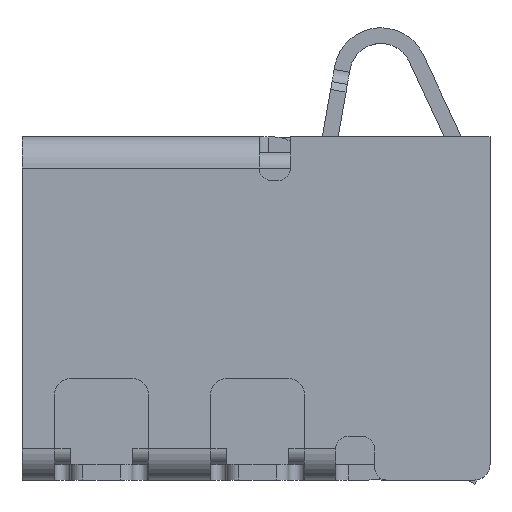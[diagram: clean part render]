
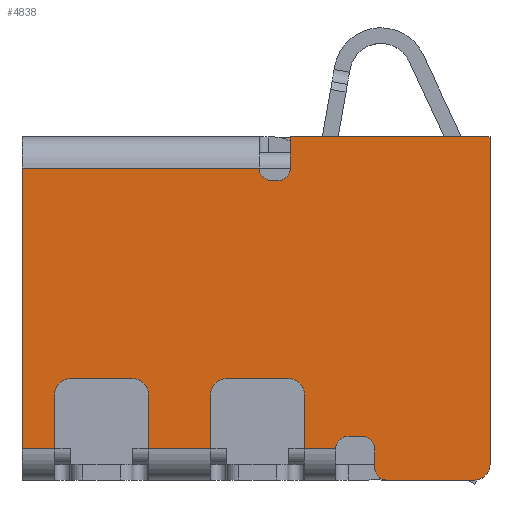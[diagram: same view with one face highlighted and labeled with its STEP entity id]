
A CAD part, top view. The second image highlights one B-rep face of the part: STEP entity #4838.
In plain terms, the highlighted planar face has unit normal (0, 0, 1) as drawn and (0, 1, 0) by its records, which use the part's own axes.
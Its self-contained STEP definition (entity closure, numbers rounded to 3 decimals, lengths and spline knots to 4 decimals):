
#229=DIRECTION('',(1.,0.,0.));
#230=VECTOR('',#229,0.09);
#231=CARTESIAN_POINT('',(0.78,0.55,-0.28));
#232=LINE('',#231,#230);
#862=DIRECTION('',(0.,0.,1.));
#863=VECTOR('',#862,0.35);
#864=CARTESIAN_POINT('',(-0.5,0.55,-0.55));
#865=LINE('',#864,#863);
#928=CARTESIAN_POINT('',(0.78,0.55,-0.2));
#929=DIRECTION('',(0.,-1.,0.));
#930=DIRECTION('',(-1.,0.,0.));
#931=AXIS2_PLACEMENT_3D('',#928,#929,#930);
#933=CARTESIAN_POINT('',(1.59,0.55,-0.1));
#934=DIRECTION('',(0.,1.,0.));
#935=DIRECTION('',(0.,0.,1.));
#936=AXIS2_PLACEMENT_3D('',#933,#934,#935);
#938=DIRECTION('',(1.,0.,0.));
#939=VECTOR('',#938,0.56);
#940=CARTESIAN_POINT('',(1.03,0.55,0.));
#941=LINE('',#940,#939);
#942=CARTESIAN_POINT('',(1.03,0.55,-0.08));
#943=DIRECTION('',(0.,1.,0.));
#944=DIRECTION('',(-1.,0.,0.));
#945=AXIS2_PLACEMENT_3D('',#942,#943,#944);
#947=DIRECTION('',(0.,0.,1.));
#948=VECTOR('',#947,0.12);
#949=CARTESIAN_POINT('',(0.95,0.55,-0.2));
#950=LINE('',#949,#948);
#951=DIRECTION('',(-1.,0.,0.));
#952=VECTOR('',#951,0.2);
#953=CARTESIAN_POINT('',(0.7,0.55,-0.2));
#954=LINE('',#953,#952);
#955=CARTESIAN_POINT('',(0.4,0.55,-0.55));
#956=DIRECTION('',(0.,1.,0.));
#957=DIRECTION('',(1.,0.,0.));
#958=AXIS2_PLACEMENT_3D('',#955,#956,#957);
#960=DIRECTION('',(-1.,0.,0.));
#961=VECTOR('',#960,0.4);
#962=CARTESIAN_POINT('',(0.4,0.55,-0.65));
#963=LINE('',#962,#961);
#964=CARTESIAN_POINT('',(0.,0.55,-0.55));
#965=DIRECTION('',(0.,1.,0.));
#966=DIRECTION('',(0.,0.,-1.));
#967=AXIS2_PLACEMENT_3D('',#964,#965,#966);
#969=DIRECTION('',(-1.,0.,0.));
#970=VECTOR('',#969,0.4);
#971=CARTESIAN_POINT('',(-0.1,0.55,-0.2));
#972=LINE('',#971,#970);
#973=CARTESIAN_POINT('',(-0.6,0.55,-0.55));
#974=DIRECTION('',(0.,1.,0.));
#975=DIRECTION('',(1.,0.,0.));
#976=AXIS2_PLACEMENT_3D('',#973,#974,#975);
#978=DIRECTION('',(-1.,0.,0.));
#979=VECTOR('',#978,0.4);
#980=CARTESIAN_POINT('',(-0.6,0.55,-0.65));
#981=LINE('',#980,#979);
#982=CARTESIAN_POINT('',(-1.,0.55,-0.55));
#983=DIRECTION('',(0.,1.,0.));
#984=DIRECTION('',(0.,0.,-1.));
#985=AXIS2_PLACEMENT_3D('',#982,#983,#984);
#987=DIRECTION('',(-1.,0.,0.));
#988=VECTOR('',#987,0.21);
#989=CARTESIAN_POINT('',(-1.1,0.55,-0.2));
#990=LINE('',#989,#988);
#991=DIRECTION('',(0.,0.,1.));
#992=VECTOR('',#991,1.8);
#993=CARTESIAN_POINT('',(-1.31,0.55,-2.));
#994=LINE('',#993,#992);
#995=DIRECTION('',(1.,0.,0.));
#996=VECTOR('',#995,1.52);
#997=CARTESIAN_POINT('',(-1.31,0.55,-2.));
#998=LINE('',#997,#996);
#999=CARTESIAN_POINT('',(0.29,0.55,-2.));
#1000=DIRECTION('',(0.,1.,0.));
#1001=DIRECTION('',(-1.,0.,0.));
#1002=AXIS2_PLACEMENT_3D('',#999,#1000,#1001);
#1004=DIRECTION('',(1.,0.,0.));
#1005=VECTOR('',#1004,0.04);
#1006=CARTESIAN_POINT('',(0.29,0.55,-1.92));
#1007=LINE('',#1006,#1005);
#1008=CARTESIAN_POINT('',(0.33,0.55,-2.));
#1009=DIRECTION('',(0.,1.,0.));
#1010=DIRECTION('',(0.,0.,1.));
#1011=AXIS2_PLACEMENT_3D('',#1008,#1009,#1010);
#1013=DIRECTION('',(0.,0.,1.));
#1014=VECTOR('',#1013,0.2);
#1015=CARTESIAN_POINT('',(0.41,0.55,-2.2));
#1016=LINE('',#1015,#1014);
#1025=DIRECTION('',(0.,0.,-1.));
#1026=VECTOR('',#1025,2.1);
#1027=CARTESIAN_POINT('',(1.69,0.55,-0.1));
#1028=LINE('',#1027,#1026);
#1450=CARTESIAN_POINT('',(0.87,0.55,-0.2));
#1451=DIRECTION('',(0.,-1.,0.));
#1452=DIRECTION('',(0.,0.,-1.));
#1453=AXIS2_PLACEMENT_3D('',#1450,#1451,#1452);
#1467=DIRECTION('',(-1.,0.,0.));
#1468=VECTOR('',#1467,1.28);
#1469=CARTESIAN_POINT('',(1.69,0.55,-2.2));
#1470=LINE('',#1469,#1468);
#1799=DIRECTION('',(0.,0.,1.));
#1800=VECTOR('',#1799,0.35);
#1801=CARTESIAN_POINT('',(0.5,0.55,-0.55));
#1802=LINE('',#1801,#1800);
#1887=DIRECTION('',(0.,0.,-1.));
#1888=VECTOR('',#1887,0.35);
#1889=CARTESIAN_POINT('',(-1.1,0.55,-0.2));
#1890=LINE('',#1889,#1888);
#1956=DIRECTION('',(0.,0.,-1.));
#1957=VECTOR('',#1956,0.35);
#1958=CARTESIAN_POINT('',(-0.1,0.55,-0.2));
#1959=LINE('',#1958,#1957);
#2635=CARTESIAN_POINT('',(-0.5,0.55,-0.2));
#2637=VERTEX_POINT('',#2635);
#2639=CARTESIAN_POINT('',(-1.1,0.55,-0.2));
#2641=VERTEX_POINT('',#2639);
#2651=CARTESIAN_POINT('',(0.5,0.55,-0.2));
#2653=VERTEX_POINT('',#2651);
#2655=CARTESIAN_POINT('',(-0.1,0.55,-0.2));
#2657=VERTEX_POINT('',#2655);
#2666=CARTESIAN_POINT('',(0.41,0.55,-2.2));
#2668=VERTEX_POINT('',#2666);
#2670=CARTESIAN_POINT('',(0.29,0.55,-1.92));
#2671=CARTESIAN_POINT('',(0.33,0.55,-1.92));
#2672=VERTEX_POINT('',#2670);
#2673=VERTEX_POINT('',#2671);
#2674=CARTESIAN_POINT('',(0.41,0.55,-2.));
#2675=VERTEX_POINT('',#2674);
#2788=CARTESIAN_POINT('',(-0.5,0.55,-0.55));
#2789=CARTESIAN_POINT('',(-0.6,0.55,-0.65));
#2790=VERTEX_POINT('',#2788);
#2791=VERTEX_POINT('',#2789);
#2792=CARTESIAN_POINT('',(-1.,0.55,-0.65));
#2793=VERTEX_POINT('',#2792);
#2794=CARTESIAN_POINT('',(-1.1,0.55,-0.55));
#2795=VERTEX_POINT('',#2794);
#2796=CARTESIAN_POINT('',(0.5,0.55,-0.55));
#2797=CARTESIAN_POINT('',(0.4,0.55,-0.65));
#2798=VERTEX_POINT('',#2796);
#2799=VERTEX_POINT('',#2797);
#2800=CARTESIAN_POINT('',(0.,0.55,-0.65));
#2801=VERTEX_POINT('',#2800);
#2802=CARTESIAN_POINT('',(-0.1,0.55,-0.55));
#2803=VERTEX_POINT('',#2802);
#2820=CARTESIAN_POINT('',(0.7,0.55,-0.2));
#2821=VERTEX_POINT('',#2820);
#2824=CARTESIAN_POINT('',(0.78,0.55,-0.28));
#2825=VERTEX_POINT('',#2824);
#2828=CARTESIAN_POINT('',(0.87,0.55,-0.28));
#2829=VERTEX_POINT('',#2828);
#2830=CARTESIAN_POINT('',(0.95,0.55,-0.2));
#2831=VERTEX_POINT('',#2830);
#2836=CARTESIAN_POINT('',(0.95,0.55,-0.08));
#2837=VERTEX_POINT('',#2836);
#2838=CARTESIAN_POINT('',(1.03,0.55,0.));
#2839=VERTEX_POINT('',#2838);
#2884=CARTESIAN_POINT('',(1.59,0.55,0.));
#2885=CARTESIAN_POINT('',(1.69,0.55,-0.1));
#2886=VERTEX_POINT('',#2884);
#2887=VERTEX_POINT('',#2885);
#2893=CARTESIAN_POINT('',(1.69,0.55,-2.2));
#2895=VERTEX_POINT('',#2893);
#2909=CARTESIAN_POINT('',(0.21,0.55,-2.));
#2911=VERTEX_POINT('',#2909);
#2928=CARTESIAN_POINT('',(-1.31,0.55,-2.));
#2929=CARTESIAN_POINT('',(-1.31,0.55,-0.2));
#2930=VERTEX_POINT('',#2928);
#2931=VERTEX_POINT('',#2929);
#4782=CARTESIAN_POINT('',(-1.5,0.55,-2.2));
#4783=DIRECTION('',(0.,1.,0.));
#4784=DIRECTION('',(0.,0.,1.));
#4785=AXIS2_PLACEMENT_3D('',#4782,#4783,#4784);
#4786=PLANE('',#4785);
#4788=ORIENTED_EDGE('',*,*,#4787,.F.);
#4790=ORIENTED_EDGE('',*,*,#4789,.F.);
#4792=ORIENTED_EDGE('',*,*,#4791,.F.);
#4794=ORIENTED_EDGE('',*,*,#4793,.F.);
#4796=ORIENTED_EDGE('',*,*,#4795,.F.);
#4798=ORIENTED_EDGE('',*,*,#4797,.F.);
#4799=ORIENTED_EDGE('',*,*,#3854,.F.);
#4800=ORIENTED_EDGE('',*,*,#4776,.F.);
#4801=ORIENTED_EDGE('',*,*,#4615,.T.);
#4803=ORIENTED_EDGE('',*,*,#4802,.F.);
#4805=ORIENTED_EDGE('',*,*,#4804,.T.);
#4807=ORIENTED_EDGE('',*,*,#4806,.T.);
#4809=ORIENTED_EDGE('',*,*,#4808,.T.);
#4811=ORIENTED_EDGE('',*,*,#4810,.F.);
#4812=ORIENTED_EDGE('',*,*,#4599,.T.);
#4813=ORIENTED_EDGE('',*,*,#4648,.F.);
#4815=ORIENTED_EDGE('',*,*,#4814,.T.);
#4817=ORIENTED_EDGE('',*,*,#4816,.T.);
#4819=ORIENTED_EDGE('',*,*,#4818,.T.);
#4821=ORIENTED_EDGE('',*,*,#4820,.F.);
#4822=ORIENTED_EDGE('',*,*,#4627,.T.);
#4823=ORIENTED_EDGE('',*,*,#4429,.F.);
#4825=ORIENTED_EDGE('',*,*,#4824,.T.);
#4827=ORIENTED_EDGE('',*,*,#4826,.T.);
#4829=ORIENTED_EDGE('',*,*,#4828,.T.);
#4831=ORIENTED_EDGE('',*,*,#4830,.T.);
#4833=ORIENTED_EDGE('',*,*,#4832,.F.);
#4835=ORIENTED_EDGE('',*,*,#4834,.F.);
#4836=EDGE_LOOP('',(#4788,#4790,#4792,#4794,#4796,#4798,#4799,#4800,#4801,#4803,
#4805,#4807,#4809,#4811,#4812,#4813,#4815,#4817,#4819,#4821,#4822,#4823,#4825,
#4827,#4829,#4831,#4833,#4835));
#4837=FACE_OUTER_BOUND('',#4836,.F.);
#4838=ADVANCED_FACE('',(#4837),#4786,.T.);
#932=CIRCLE('',#931,0.08);
#937=CIRCLE('',#936,0.1);
#946=CIRCLE('',#945,0.08);
#959=CIRCLE('',#958,0.1);
#968=CIRCLE('',#967,0.1);
#977=CIRCLE('',#976,0.1);
#986=CIRCLE('',#985,0.1);
#1003=CIRCLE('',#1002,0.08);
#1012=CIRCLE('',#1011,0.08);
#1454=CIRCLE('',#1453,0.08);
#3854=EDGE_CURVE('',#2825,#2829,#232,.T.);
#4429=EDGE_CURVE('',#2930,#2931,#994,.T.);
#4599=EDGE_CURVE('',#2657,#2637,#972,.T.);
#4615=EDGE_CURVE('',#2821,#2653,#954,.T.);
#4627=EDGE_CURVE('',#2641,#2931,#990,.T.);
#4648=EDGE_CURVE('',#2790,#2637,#865,.T.);
#4776=EDGE_CURVE('',#2821,#2825,#932,.T.);
#4787=EDGE_CURVE('',#2887,#2895,#1028,.T.);
#4789=EDGE_CURVE('',#2886,#2887,#937,.T.);
#4791=EDGE_CURVE('',#2839,#2886,#941,.T.);
#4793=EDGE_CURVE('',#2837,#2839,#946,.T.);
#4795=EDGE_CURVE('',#2831,#2837,#950,.T.);
#4797=EDGE_CURVE('',#2829,#2831,#1454,.T.);
#4802=EDGE_CURVE('',#2798,#2653,#1802,.T.);
#4804=EDGE_CURVE('',#2798,#2799,#959,.T.);
#4806=EDGE_CURVE('',#2799,#2801,#963,.T.);
#4808=EDGE_CURVE('',#2801,#2803,#968,.T.);
#4810=EDGE_CURVE('',#2657,#2803,#1959,.T.);
#4814=EDGE_CURVE('',#2790,#2791,#977,.T.);
#4816=EDGE_CURVE('',#2791,#2793,#981,.T.);
#4818=EDGE_CURVE('',#2793,#2795,#986,.T.);
#4820=EDGE_CURVE('',#2641,#2795,#1890,.T.);
#4824=EDGE_CURVE('',#2930,#2911,#998,.T.);
#4826=EDGE_CURVE('',#2911,#2672,#1003,.T.);
#4828=EDGE_CURVE('',#2672,#2673,#1007,.T.);
#4830=EDGE_CURVE('',#2673,#2675,#1012,.T.);
#4832=EDGE_CURVE('',#2668,#2675,#1016,.T.);
#4834=EDGE_CURVE('',#2895,#2668,#1470,.T.);
